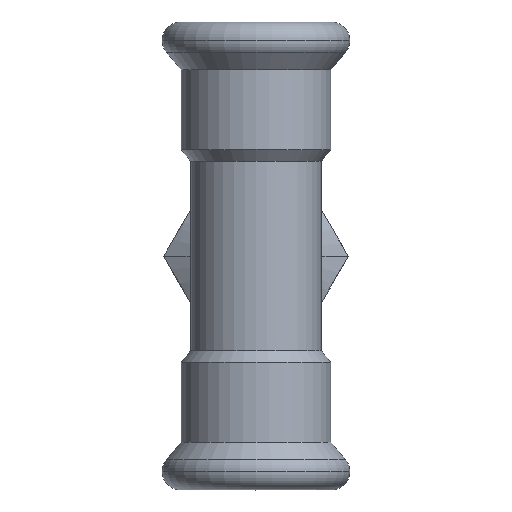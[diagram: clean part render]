
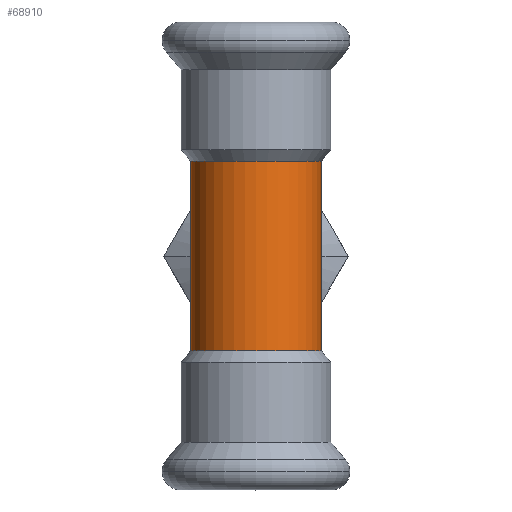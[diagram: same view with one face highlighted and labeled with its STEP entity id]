
A CAD part, top view. The second image highlights one B-rep face of the part: STEP entity #68910.
In plain terms, the highlighted cylindrical face has radius 11 mm (diameter 22 mm), a partial arc.
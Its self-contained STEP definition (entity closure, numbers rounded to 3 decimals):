
#21200=CARTESIAN_POINT('',(278.14,68.404,
-16.));
#21210=DIRECTION('',(0.,0.,-1.));
#21220=DIRECTION('',(-1.,0.,0.));
#21230=AXIS2_PLACEMENT_3D('',#21200,#21210,#21220);
#21240=CYLINDRICAL_SURFACE('',#21230,11.);
#35410=CARTESIAN_POINT('',(289.14,68.404,
-16.));
#35420=DIRECTION('',(0.,0.,-1.));
#35430=VECTOR('',#35420,1.);
#35440=LINE('',#35410,#35430);
#35450=CARTESIAN_POINT('',(289.14,68.404,
16.));
#35460=VERTEX_POINT('',#35450);
#35470=CARTESIAN_POINT('',(289.14,68.404,
-16.));
#35480=VERTEX_POINT('',#35470);
#35490=EDGE_CURVE('',#35460,#35480,#35440,.T.);
#35510=CARTESIAN_POINT('',(278.14,68.404,
-16.));
#35520=DIRECTION('',(0.,0.,-1.));
#35530=DIRECTION('',(1.,0.,0.));
#35540=AXIS2_PLACEMENT_3D('',#35510,#35520,#35530);
#35550=CIRCLE('',#35540,11.);
#35560=CARTESIAN_POINT('',(267.14,68.404,
-16.));
#35570=VERTEX_POINT('',#35560);
#35600=CARTESIAN_POINT('',(267.14,68.404,
-16.));
#35610=DIRECTION('',(0.,0.,-1.));
#35620=VECTOR('',#35610,1.);
#35630=LINE('',#35600,#35620);
#35640=CARTESIAN_POINT('',(267.14,68.404,
16.));
#35650=VERTEX_POINT('',#35640);
#35660=EDGE_CURVE('',#35650,#35570,#35630,.T.);
#35680=CARTESIAN_POINT('',(278.14,68.404,
16.));
#35690=DIRECTION('',(0.,0.,-1.));
#35700=DIRECTION('',(-1.,0.,0.));
#35710=AXIS2_PLACEMENT_3D('',#35680,#35690,#35700);
#35720=CIRCLE('',#35710,11.);
#68830=EDGE_CURVE('',#35650,#35460,#35720,.T.);
#68840=ORIENTED_EDGE('',*,*,#68830,.T.);
#68850=ORIENTED_EDGE('',*,*,#35660,.F.);
#68860=EDGE_CURVE('',#35570,#35480,#35550,.T.);
#68870=ORIENTED_EDGE('',*,*,#68860,.F.);
#68880=ORIENTED_EDGE('',*,*,#35490,.T.);
#68890=EDGE_LOOP('',(#68880,#68870,#68850,#68840));
#68900=FACE_OUTER_BOUND('',#68890,.T.);
#68910=ADVANCED_FACE('',(#68900),#21240,.T.);
